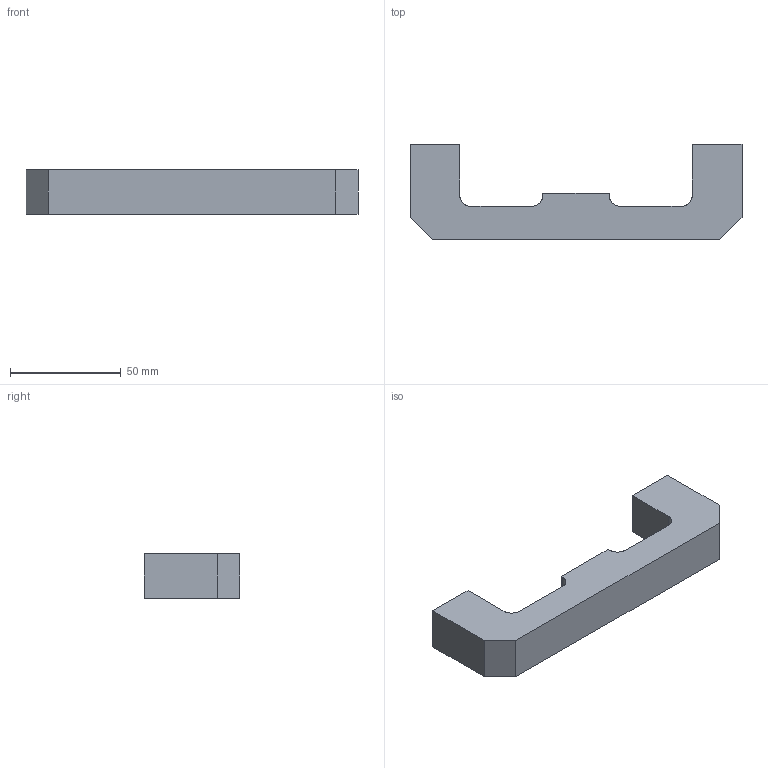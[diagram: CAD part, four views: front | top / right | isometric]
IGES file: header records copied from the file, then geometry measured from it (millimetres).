
Start section: SolidWorks IGES file using analytic representation for surfaces
Global section: file name: J:\Scolaire\BAC Pro\Epreuves professionnelles\E2\CD\Dossier Examinateurs\Dessins CN 5 axes\IGES\butee.IGS; native system: SolidWorks 2005 by SolidWorks Corporation; preprocessor: SolidWorks 2005 by SolidWorks Corporation; author: Famille Couzi; date: 091204.124105; units: millimetre
Bounding box: 150 x 43 x 20 mm (x, y, z)
Surface area: 15896.9 mm2 (no closed solid volume)
Topology: 0 solids, 0 shells, 20 faces, 164 edges, 164 vertices
Faces by surface type: bspline 16, revolution 4
